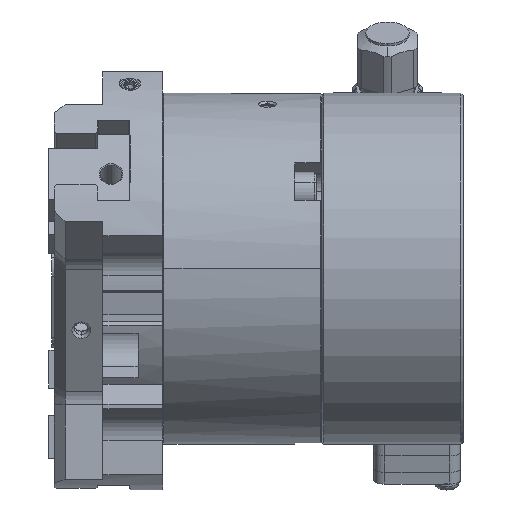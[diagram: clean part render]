
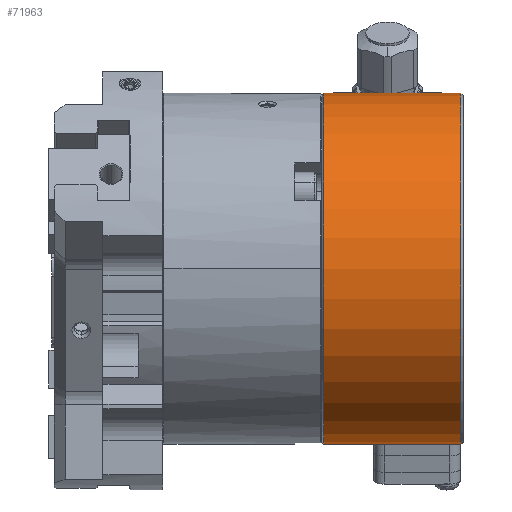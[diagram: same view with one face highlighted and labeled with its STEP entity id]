
A CAD part, left-side view. The second image highlights one B-rep face of the part: STEP entity #71963.
In plain terms, the highlighted cylindrical face has radius 32.5 mm (diameter 65 mm), a partial arc.
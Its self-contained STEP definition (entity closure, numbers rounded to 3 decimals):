
#1279 = FACE_OUTER_BOUND ( 'NONE', #60748, .T. ) ;
#1455 = VERTEX_POINT ( 'NONE', #21080 ) ;
#2012 = EDGE_CURVE ( 'NONE', #15181, #1455, #83739, .T. ) ;
#4898 = CIRCLE ( 'NONE', #15783, 32.5 ) ;
#5078 = CIRCLE ( 'NONE', #40554, 32.5 ) ;
#7477 = LINE ( 'NONE', #71110, #30381 ) ;
#15181 = VERTEX_POINT ( 'NONE', #69298 ) ;
#15783 = AXIS2_PLACEMENT_3D ( 'NONE', #33561, #46795, #32724 ) ;
#16694 = VECTOR ( 'NONE', #69626, 1000. ) ;
#20673 = DIRECTION ( 'NONE',  ( 0., 1., 0. ) ) ;
#21080 = CARTESIAN_POINT ( 'NONE',  ( 0., 25.8, -32.5 ) ) ;
#22185 = DIRECTION ( 'NONE',  ( 0., 0., 1. ) ) ;
#26372 = VERTEX_POINT ( 'NONE', #78019 ) ;
#28186 = CYLINDRICAL_SURFACE ( 'NONE', #81350, 32.5 ) ;
#28664 = EDGE_CURVE ( 'NONE', #1455, #26372, #5078, .T. ) ;
#28734 = CARTESIAN_POINT ( 'NONE',  ( 0., 25.8, 0. ) ) ;
#30381 = VECTOR ( 'NONE', #20673, 1000. ) ;
#32724 = DIRECTION ( 'NONE',  ( 0., 0., 1. ) ) ;
#33181 = VERTEX_POINT ( 'NONE', #62783 ) ;
#33561 = CARTESIAN_POINT ( 'NONE',  ( 0., 0.4, 0. ) ) ;
#40554 = AXIS2_PLACEMENT_3D ( 'NONE', #28734, #54798, #80859 ) ;
#42272 = DIRECTION ( 'NONE',  ( 0., 1., 0. ) ) ;
#46795 = DIRECTION ( 'NONE',  ( 0., 1., 0. ) ) ;
#48560 = ORIENTED_EDGE ( 'NONE', *, *, #78077, .T. ) ;
#49349 = ORIENTED_EDGE ( 'NONE', *, *, #70174, .T. ) ;
#49583 = CARTESIAN_POINT ( 'NONE',  ( 0., 55., -32.5 ) ) ;
#54798 = DIRECTION ( 'NONE',  ( 0., 1., 0. ) ) ;
#60165 = ORIENTED_EDGE ( 'NONE', *, *, #2012, .F. ) ;
#60748 = EDGE_LOOP ( 'NONE', ( #60165, #48560, #49349, #83002 ) ) ;
#61068 = CARTESIAN_POINT ( 'NONE',  ( 0., 55., 0. ) ) ;
#62783 = CARTESIAN_POINT ( 'NONE',  ( 0., 0.4, 32.5 ) ) ;
#69298 = CARTESIAN_POINT ( 'NONE',  ( 0., 0.4, -32.5 ) ) ;
#69626 = DIRECTION ( 'NONE',  ( 0., 1., 0. ) ) ;
#70174 = EDGE_CURVE ( 'NONE', #33181, #26372, #7477, .T. ) ;
#71110 = CARTESIAN_POINT ( 'NONE',  ( 0., 55., 32.5 ) ) ;
#71963 = ADVANCED_FACE ( 'NONE', ( #1279 ), #28186, .T. ) ;
#78019 = CARTESIAN_POINT ( 'NONE',  ( 0., 25.8, 32.5 ) ) ;
#78077 = EDGE_CURVE ( 'NONE', #15181, #33181, #4898, .T. ) ;
#80859 = DIRECTION ( 'NONE',  ( 0., 0., 1. ) ) ;
#81350 = AXIS2_PLACEMENT_3D ( 'NONE', #61068, #42272, #22185 ) ;
#83002 = ORIENTED_EDGE ( 'NONE', *, *, #28664, .F. ) ;
#83739 = LINE ( 'NONE', #49583, #16694 ) ;
